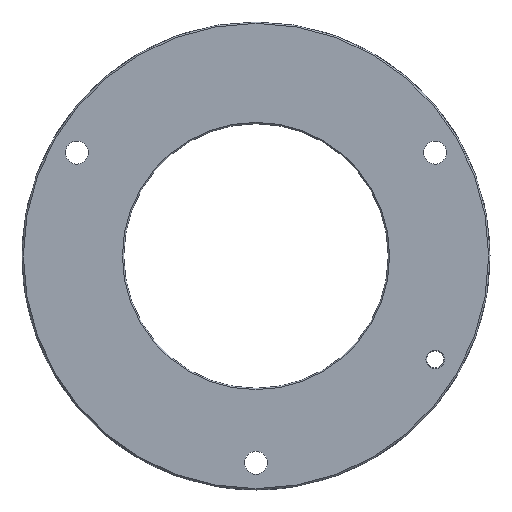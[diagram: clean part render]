
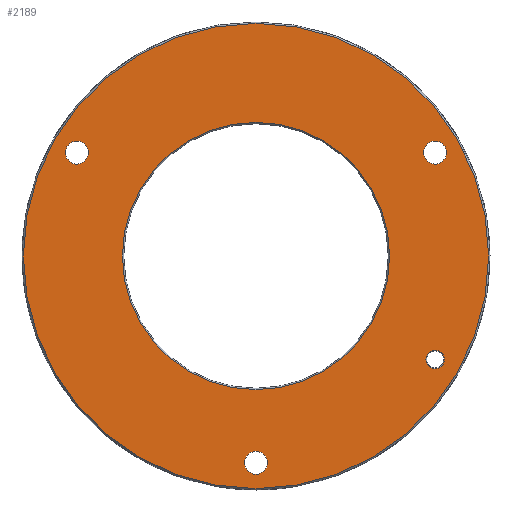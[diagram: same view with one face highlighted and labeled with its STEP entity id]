
A CAD part, front view. The second image highlights one B-rep face of the part: STEP entity #2189.
In plain terms, the highlighted planar face has unit normal (0, -1, 0).
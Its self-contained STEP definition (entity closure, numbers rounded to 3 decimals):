
#19 = EDGE_LOOP ( 'NONE', ( #848, #2904 ) ) ;
#55 = DIRECTION ( 'NONE',  ( 0., 1., 0. ) ) ;
#88 = AXIS2_PLACEMENT_3D ( 'NONE', #2159, #55, #3272 ) ;
#97 = VERTEX_POINT ( 'NONE', #99 ) ;
#99 = CARTESIAN_POINT ( 'NONE',  ( 26.414, 0., -13.9 ) ) ;
#102 = EDGE_CURVE ( 'NONE', #209, #807, #628, .T. ) ;
#109 = DIRECTION ( 'NONE',  ( 0., 0., 1. ) ) ;
#149 = AXIS2_PLACEMENT_3D ( 'NONE', #2060, #2040, #269 ) ;
#209 = VERTEX_POINT ( 'NONE', #391 ) ;
#215 = DIRECTION ( 'NONE',  ( 0., 0., 1. ) ) ;
#267 = ORIENTED_EDGE ( 'NONE', *, *, #102, .T. ) ;
#269 = DIRECTION ( 'NONE',  ( 0., 0., 1. ) ) ;
#274 = DIRECTION ( 'NONE',  ( 0., 1., 0. ) ) ;
#342 = FACE_BOUND ( 'NONE', #424, .T. ) ;
#391 = CARTESIAN_POINT ( 'NONE',  ( -26.414, 0., 16.95 ) ) ;
#419 = CARTESIAN_POINT ( 'NONE',  ( 26.414, 0., -15.25 ) ) ;
#424 = EDGE_LOOP ( 'NONE', ( #746, #646 ) ) ;
#431 = DIRECTION ( 'NONE',  ( 0., 1., 0. ) ) ;
#474 = EDGE_CURVE ( 'NONE', #2633, #2163, #2774, .T. ) ;
#504 = VERTEX_POINT ( 'NONE', #1055 ) ;
#571 = AXIS2_PLACEMENT_3D ( 'NONE', #2101, #2086, #1880 ) ;
#591 = EDGE_LOOP ( 'NONE', ( #3290, #1041 ) ) ;
#628 = CIRCLE ( 'NONE', #88, 1.7 ) ;
#644 = VERTEX_POINT ( 'NONE', #2233 ) ;
#646 = ORIENTED_EDGE ( 'NONE', *, *, #727, .T. ) ;
#684 = CIRCLE ( 'NONE', #1425, 1.35 ) ;
#727 = EDGE_CURVE ( 'NONE', #644, #782, #2689, .T. ) ;
#746 = ORIENTED_EDGE ( 'NONE', *, *, #2948, .T. ) ;
#752 = VERTEX_POINT ( 'NONE', #1827 ) ;
#765 = DIRECTION ( 'NONE',  ( 0., 1., 0. ) ) ;
#782 = VERTEX_POINT ( 'NONE', #1869 ) ;
#783 = CARTESIAN_POINT ( 'NONE',  ( 0., 0., -30.5 ) ) ;
#807 = VERTEX_POINT ( 'NONE', #2093 ) ;
#816 = EDGE_LOOP ( 'NONE', ( #1387, #3205 ) ) ;
#848 = ORIENTED_EDGE ( 'NONE', *, *, #3057, .T. ) ;
#853 = FACE_BOUND ( 'NONE', #1325, .T. ) ;
#956 = AXIS2_PLACEMENT_3D ( 'NONE', #783, #765, #1602 ) ;
#968 = CIRCLE ( 'NONE', #1808, 34.3 ) ;
#1041 = ORIENTED_EDGE ( 'NONE', *, *, #1375, .T. ) ;
#1055 = CARTESIAN_POINT ( 'NONE',  ( 0., 0., 34.3 ) ) ;
#1115 = CARTESIAN_POINT ( 'NONE',  ( 0., 0., 0. ) ) ;
#1118 = EDGE_CURVE ( 'NONE', #807, #209, #3301, .T. ) ;
#1199 = CIRCLE ( 'NONE', #149, 1.7 ) ;
#1277 = AXIS2_PLACEMENT_3D ( 'NONE', #1703, #2012, #109 ) ;
#1302 = CARTESIAN_POINT ( 'NONE',  ( 0., 0., -30.5 ) ) ;
#1325 = EDGE_LOOP ( 'NONE', ( #2647, #2649 ) ) ;
#1375 = EDGE_CURVE ( 'NONE', #97, #752, #3224, .T. ) ;
#1387 = ORIENTED_EDGE ( 'NONE', *, *, #2241, .T. ) ;
#1392 = AXIS2_PLACEMENT_3D ( 'NONE', #1302, #274, #215 ) ;
#1393 = CARTESIAN_POINT ( 'NONE',  ( 0., 0., 0. ) ) ;
#1394 = PLANE ( 'NONE',  #2540 ) ;
#1425 = AXIS2_PLACEMENT_3D ( 'NONE', #2989, #2968, #2461 ) ;
#1480 = DIRECTION ( 'NONE',  ( 0., 0., 1. ) ) ;
#1551 = CARTESIAN_POINT ( 'NONE',  ( 26.414, 0., 16.95 ) ) ;
#1566 = CIRCLE ( 'NONE', #3284, 19.7 ) ;
#1596 = DIRECTION ( 'NONE',  ( 0., -1., 0. ) ) ;
#1602 = DIRECTION ( 'NONE',  ( 0., 0., 1. ) ) ;
#1617 = AXIS2_PLACEMENT_3D ( 'NONE', #419, #431, #1480 ) ;
#1681 = ORIENTED_EDGE ( 'NONE', *, *, #1118, .T. ) ;
#1703 = CARTESIAN_POINT ( 'NONE',  ( 0., 0., 0. ) ) ;
#1704 = FACE_BOUND ( 'NONE', #591, .T. ) ;
#1727 = EDGE_CURVE ( 'NONE', #2091, #3236, #1199, .T. ) ;
#1753 = AXIS2_PLACEMENT_3D ( 'NONE', #3017, #1915, #2766 ) ;
#1778 = AXIS2_PLACEMENT_3D ( 'NONE', #1393, #1596, #2652 ) ;
#1808 = AXIS2_PLACEMENT_3D ( 'NONE', #2901, #2609, #3425 ) ;
#1827 = CARTESIAN_POINT ( 'NONE',  ( 26.414, 0., -16.6 ) ) ;
#1869 = CARTESIAN_POINT ( 'NONE',  ( 0., 0., -28.8 ) ) ;
#1880 = DIRECTION ( 'NONE',  ( 0., 0., 1. ) ) ;
#1911 = VERTEX_POINT ( 'NONE', #3098 ) ;
#1915 = DIRECTION ( 'NONE',  ( 0., 1., 0. ) ) ;
#2012 = DIRECTION ( 'NONE',  ( 0., 1., 0. ) ) ;
#2013 = CARTESIAN_POINT ( 'NONE',  ( 0., 0., 0. ) ) ;
#2040 = DIRECTION ( 'NONE',  ( 0., 1., 0. ) ) ;
#2060 = CARTESIAN_POINT ( 'NONE',  ( 26.414, 0., 15.25 ) ) ;
#2086 = DIRECTION ( 'NONE',  ( 0., 1., 0. ) ) ;
#2091 = VERTEX_POINT ( 'NONE', #1551 ) ;
#2093 = CARTESIAN_POINT ( 'NONE',  ( -26.414, 0., 13.55 ) ) ;
#2101 = CARTESIAN_POINT ( 'NONE',  ( -26.414, 0., 15.25 ) ) ;
#2113 = EDGE_CURVE ( 'NONE', #1911, #504, #968, .T. ) ;
#2155 = FACE_BOUND ( 'NONE', #2894, .T. ) ;
#2159 = CARTESIAN_POINT ( 'NONE',  ( -26.414, 0., 15.25 ) ) ;
#2163 = VERTEX_POINT ( 'NONE', #2205 ) ;
#2189 = ADVANCED_FACE ( 'NONE', ( #1704, #2962, #2421, #342, #853, #2155 ), #1394, .F. ) ;
#2198 = EDGE_CURVE ( 'NONE', #3236, #2091, #3419, .T. ) ;
#2205 = CARTESIAN_POINT ( 'NONE',  ( 0., 0., -19.7 ) ) ;
#2233 = CARTESIAN_POINT ( 'NONE',  ( 0., 0., -32.2 ) ) ;
#2241 = EDGE_CURVE ( 'NONE', #2163, #2633, #1566, .T. ) ;
#2421 = FACE_OUTER_BOUND ( 'NONE', #19, .T. ) ;
#2461 = DIRECTION ( 'NONE',  ( 0., 0., 1. ) ) ;
#2462 = CARTESIAN_POINT ( 'NONE',  ( 26.414, 0., 13.55 ) ) ;
#2540 = AXIS2_PLACEMENT_3D ( 'NONE', #1115, #2745, #3268 ) ;
#2587 = EDGE_CURVE ( 'NONE', #752, #97, #684, .T. ) ;
#2609 = DIRECTION ( 'NONE',  ( 0., -1., 0. ) ) ;
#2633 = VERTEX_POINT ( 'NONE', #3340 ) ;
#2647 = ORIENTED_EDGE ( 'NONE', *, *, #1727, .T. ) ;
#2649 = ORIENTED_EDGE ( 'NONE', *, *, #2198, .T. ) ;
#2652 = DIRECTION ( 'NONE',  ( 0., 0., 1. ) ) ;
#2689 = CIRCLE ( 'NONE', #956, 1.7 ) ;
#2745 = DIRECTION ( 'NONE',  ( 0., 1., 0. ) ) ;
#2766 = DIRECTION ( 'NONE',  ( 0., 0., 1. ) ) ;
#2774 = CIRCLE ( 'NONE', #1277, 19.7 ) ;
#2781 = DIRECTION ( 'NONE',  ( 0., 1., 0. ) ) ;
#2894 = EDGE_LOOP ( 'NONE', ( #267, #1681 ) ) ;
#2901 = CARTESIAN_POINT ( 'NONE',  ( 0., 0., 0. ) ) ;
#2904 = ORIENTED_EDGE ( 'NONE', *, *, #2113, .T. ) ;
#2948 = EDGE_CURVE ( 'NONE', #782, #644, #3109, .T. ) ;
#2962 = FACE_BOUND ( 'NONE', #816, .T. ) ;
#2968 = DIRECTION ( 'NONE',  ( 0., 1., 0. ) ) ;
#2989 = CARTESIAN_POINT ( 'NONE',  ( 26.414, 0., -15.25 ) ) ;
#3017 = CARTESIAN_POINT ( 'NONE',  ( 26.414, 0., 15.25 ) ) ;
#3057 = EDGE_CURVE ( 'NONE', #504, #1911, #3278, .T. ) ;
#3098 = CARTESIAN_POINT ( 'NONE',  ( 0., 0., -34.3 ) ) ;
#3109 = CIRCLE ( 'NONE', #1392, 1.7 ) ;
#3205 = ORIENTED_EDGE ( 'NONE', *, *, #474, .T. ) ;
#3224 = CIRCLE ( 'NONE', #1617, 1.35 ) ;
#3236 = VERTEX_POINT ( 'NONE', #2462 ) ;
#3268 = DIRECTION ( 'NONE',  ( 0., 0., 1. ) ) ;
#3272 = DIRECTION ( 'NONE',  ( 0., 0., 1. ) ) ;
#3278 = CIRCLE ( 'NONE', #1778, 34.3 ) ;
#3284 = AXIS2_PLACEMENT_3D ( 'NONE', #2013, #2781, #3368 ) ;
#3290 = ORIENTED_EDGE ( 'NONE', *, *, #2587, .T. ) ;
#3301 = CIRCLE ( 'NONE', #571, 1.7 ) ;
#3340 = CARTESIAN_POINT ( 'NONE',  ( 0., 0., 19.7 ) ) ;
#3368 = DIRECTION ( 'NONE',  ( 0., 0., 1. ) ) ;
#3419 = CIRCLE ( 'NONE', #1753, 1.7 ) ;
#3425 = DIRECTION ( 'NONE',  ( 0., 0., 1. ) ) ;
